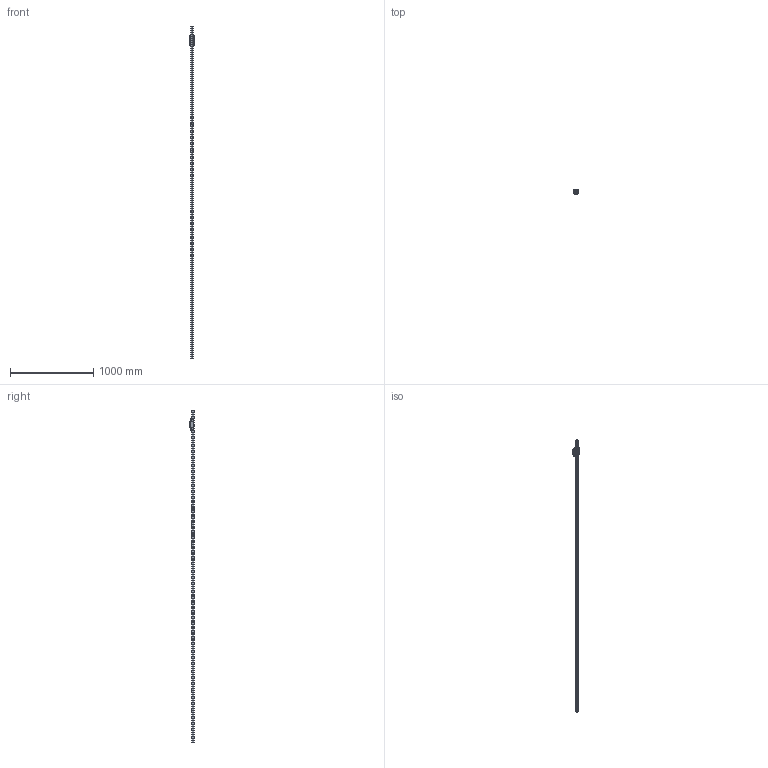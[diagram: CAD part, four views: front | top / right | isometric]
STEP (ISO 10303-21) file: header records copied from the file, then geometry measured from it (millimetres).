
FILE_DESCRIPTION((''),'2;1');
FILE_NAME('BRS35-R0_CUSTOMER_ASM_ASM','2020-11-24T13:43:39',('TWVS2025'),(''),'CREO PARAMETRIC BY PTC INC, 2018420','CREO PARAMETRIC BY PTC INC, 2018420','');
FILE_SCHEMA(('CONFIG_CONTROL_DESIGN'));
Products named in the file (4): BC-BRC35-R0_ASM_1; BRS35-R0_CUSTOMER_ASM_1_ASM; BRR35_CUSTOMER_1; BRS35-R0_CUSTOMER_ASM_ASM
Assembly tree (3 placements, depth 3):
  BRS35-R0_CUSTOMER_ASM_ASM
    BRS35-R0_CUSTOMER_ASM_1_ASM
      BC-BRC35-R0_ASM_1
    BRR35_CUSTOMER_1
Bounding box: 69.95 x 55 x 4000 mm (x, y, z)
Volume: 3389744.8 mm3; surface area: 651911.9 mm2
Topology: 1 solids, 76 shells, 1772 faces, 5204 edges, 3418 vertices
Faces by surface type: plane 726, cylinder 622, sphere 188, bspline 124, cone 62, torus 50
Entity records: 79997 total; most frequent: CARTESIAN_POINT 34355, ORIENTED_EDGE 9838, DIRECTION 9096, EDGE_CURVE 4928, VERTEX_POINT 3418, AXIS2_PLACEMENT_3D 3402, VECTOR 2292, LINE 2292
